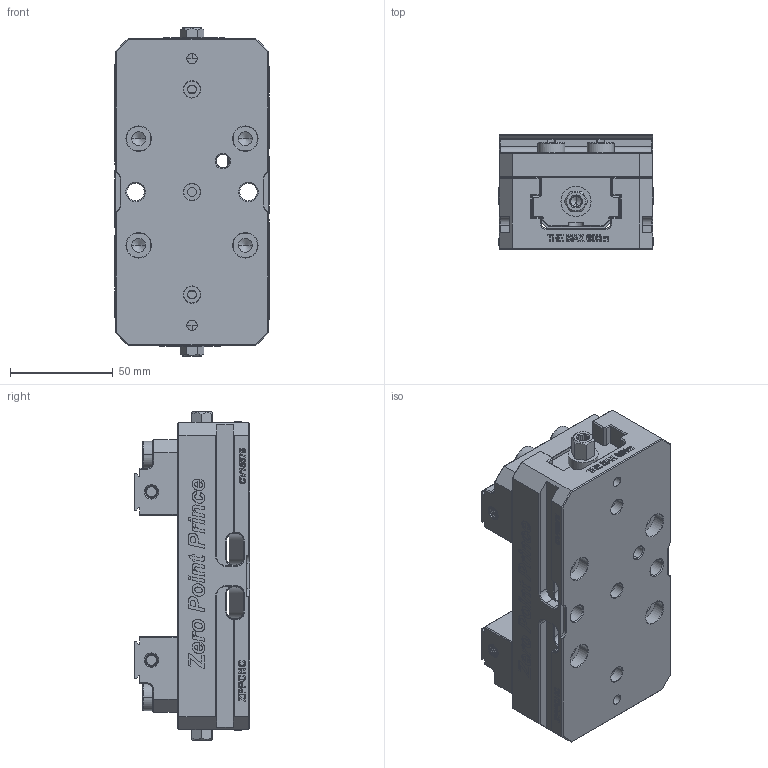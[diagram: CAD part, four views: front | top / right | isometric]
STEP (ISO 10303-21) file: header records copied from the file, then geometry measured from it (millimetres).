
FILE_DESCRIPTION((''),'2;1');
FILE_NAME('ASM0001_ASM','2025-05-17T18:39:36',('XF'),(''),'CREO PARAMETRIC BY PTC INC, 2023073','CREO PARAMETRIC BY PTC INC, 2023073','');
FILE_SCHEMA(('CONFIG_CONTROL_DESIGN'));
Products named in the file (90): CV15075_N_10_1; CV15075_N_10_2; CV15075_N_10_3; CV15075_N_10_4; CV15075_N_10_5; CV15075_N_10_6; CV15075_N_10_7; CV15075_N_10_8; CV15075_N_10_9; CV15075_N_10_10; CV15075_N_10_11; CV15075_N_10_12; CV15075_N_10_13; CV15075_N_10_14; CV15075_N_10_15; CV15075_N_10_16; CV15075_N_10_17; CV15075_N_10_18; CV15075_N_10_19; CV15075_N_10_20; CV15075_N_10_21; CV15075_N_10_22; CV15075_N_10_23; CV15075_N_10_24; CV15075_N_10_25; CV15075_N_10_26; CV15075_N_10_27; CV15075_N_10_28; CV15075_N_10_29; CV15075_N_10_30; CV15075_N_10_31; CV15075_N_10_32; CV15075_N_10_33; CV15075_N_10_34; CV15075_N_10_35; CV15075_N_10_36; CV15075_N_10_37; CV15075_N_10_38; CV15075_N_10_39; CV15075_N_10_40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
Assembly tree (101 placements, depth 4):
  ASM0001_ASM
    CV15075_Z_ASM_6_ASM
      CV15075_N_10_ASM
        CV15075_N_10_1
        CV15075_N_10_2
        CV15075_N_10_3
        CV15075_N_10_4
        CV15075_N_10_5
        CV15075_N_10_6
        CV15075_N_10_7
        CV15075_N_10_8
        CV15075_N_10_9
        CV15075_N_10_10
        CV15075_N_10_11
        CV15075_N_10_12
        CV15075_N_10_13
        CV15075_N_10_14
        CV15075_N_10_15
        CV15075_N_10_16
        CV15075_N_10_17
        CV15075_N_10_18
        CV15075_N_10_19
        CV15075_N_10_20
        CV15075_N_10_21
        CV15075_N_10_22
        CV15075_N_10_23
        CV15075_N_10_24
        CV15075_N_10_25
        CV15075_N_10_26
        CV15075_N_10_27
        CV15075_N_10_28
        CV15075_N_10_29
        CV15075_N_10_30
        CV15075_N_10_31
        CV15075_N_10_32
        CV15075_N_10_33
        CV15075_N_10_34
        CV15075_N_10_35
        CV15075_N_10_36
        CV15075_N_10_37
        CV15075_N_10_38
        CV15075_N_10_39
        CV15075_N_10_40
        CV15075_N_10_41
        CV15075_N_10_42
        CV15075_N_10_43
        CV15075_N_10_44
        CV15075_N_10_45
        CV15075_N_10_46
        CV15075_N_10_47
        CV15075_N_10_48
        CV15075_N_10_49
        CV15075_N_10_50
        CV15075_N_10_51
        CV15075_N_10_52
        CV15075_N_10_53
        CV15075_N_10_54
        CV15075_N_10_55
        CV15075_N_10_56
        CV15075_N_10_57
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Bounding box: 75.1 x 56.15 x 160 mm (x, y, z)
Volume: 386821.1 mm3; surface area: 127667.1 mm2
Topology: 99 solids, 120 shells, 4613 faces, 12248 edges, 8109 vertices
Faces by surface type: plane 3219, extrusion 716, cylinder 348, cone 226, bspline 68, torus 32, sphere 4
Entity records: 106702 total; most frequent: CARTESIAN_POINT 30089, ORIENTED_EDGE 16466, DIRECTION 13118, EDGE_CURVE 8257, VECTOR 6486, LINE 5770, VERTEX_POINT 5477, EDGE_LOOP 3356
